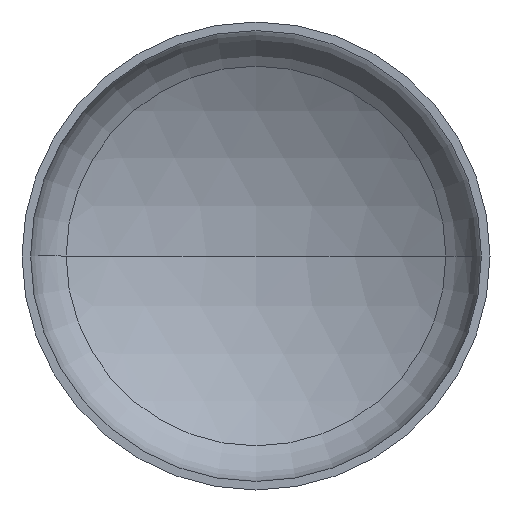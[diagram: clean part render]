
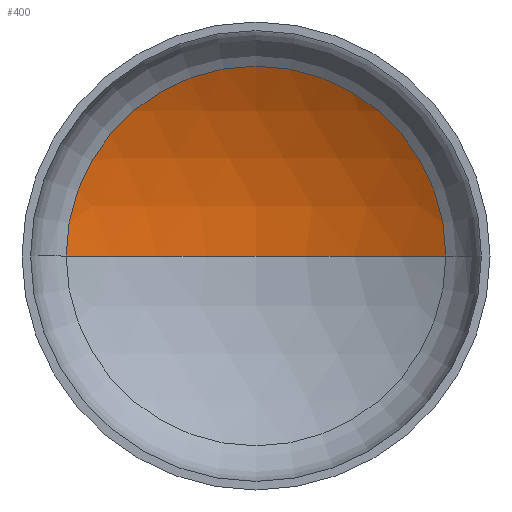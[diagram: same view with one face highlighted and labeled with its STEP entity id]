
A CAD part, front view. The second image highlights one B-rep face of the part: STEP entity #400.
In plain terms, the highlighted spherical face has radius 4800 mm.
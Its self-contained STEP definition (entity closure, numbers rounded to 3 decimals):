
#10 = DIRECTION ( 'NONE',  ( 1., 0., 0. ) ) ;
#11 = VERTEX_POINT ( 'NONE', #235 ) ;
#13 = DIRECTION ( 'NONE',  ( 0., 0., 1. ) ) ;
#16 = DIRECTION ( 'NONE',  ( -1., 0., 0. ) ) ;
#37 = AXIS2_PLACEMENT_3D ( 'NONE', #234, #13, #10 ) ;
#39 = AXIS2_PLACEMENT_3D ( 'NONE', #152, #344, #16 ) ;
#42 = AXIS2_PLACEMENT_3D ( 'NONE', #156, #164, #137 ) ;
#72 = VERTEX_POINT ( 'NONE', #204 ) ;
#96 = EDGE_CURVE ( 'NONE', #72, #11, #155, .T. ) ;
#100 = EDGE_CURVE ( 'NONE', #325, #72, #366, .T. ) ;
#102 = EDGE_CURVE ( 'NONE', #325, #11, #293, .T. ) ;
#127 = DIRECTION ( 'NONE',  ( -1., 0., 0. ) ) ;
#136 = EDGE_LOOP ( 'NONE', ( #163, #405, #255 ) ) ;
#137 = DIRECTION ( 'NONE',  ( 1., 0., 0. ) ) ;
#152 = CARTESIAN_POINT ( 'NONE',  ( 0., -3264.82, 0. ) ) ;
#155 = CIRCLE ( 'NONE', #42, 2434.065 ) ;
#156 = CARTESIAN_POINT ( 'NONE',  ( 0., 872.247, 0. ) ) ;
#163 = ORIENTED_EDGE ( 'NONE', *, *, #102, .F. ) ;
#164 = DIRECTION ( 'NONE',  ( 0., -1., 0. ) ) ;
#204 = CARTESIAN_POINT ( 'NONE',  ( 2434.065, 872.247, 0. ) ) ;
#232 = FACE_OUTER_BOUND ( 'NONE', #136, .T. ) ;
#234 = CARTESIAN_POINT ( 'NONE',  ( 0., -3264.82, 0. ) ) ;
#235 = CARTESIAN_POINT ( 'NONE',  ( -2434.065, 872.247, 0. ) ) ;
#255 = ORIENTED_EDGE ( 'NONE', *, *, #96, .T. ) ;
#293 = CIRCLE ( 'NONE', #37, 4800. ) ;
#297 = CARTESIAN_POINT ( 'NONE',  ( 0., -3264.82, 0. ) ) ;
#307 = SPHERICAL_SURFACE ( 'NONE', #364, 4800. ) ;
#325 = VERTEX_POINT ( 'NONE', #341 ) ;
#341 = CARTESIAN_POINT ( 'NONE',  ( 0., 1535.18, 0. ) ) ;
#344 = DIRECTION ( 'NONE',  ( 0., 0., -1. ) ) ;
#364 = AXIS2_PLACEMENT_3D ( 'NONE', #297, #379, #127 ) ;
#366 = CIRCLE ( 'NONE', #39, 4800. ) ;
#379 = DIRECTION ( 'NONE',  ( 0., 0., -1. ) ) ;
#400 = ADVANCED_FACE ( 'NONE', ( #232 ), #307, .F. ) ;
#405 = ORIENTED_EDGE ( 'NONE', *, *, #100, .T. ) ;
